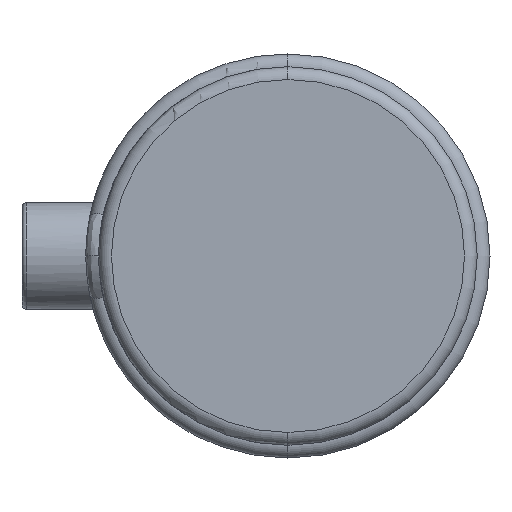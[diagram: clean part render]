
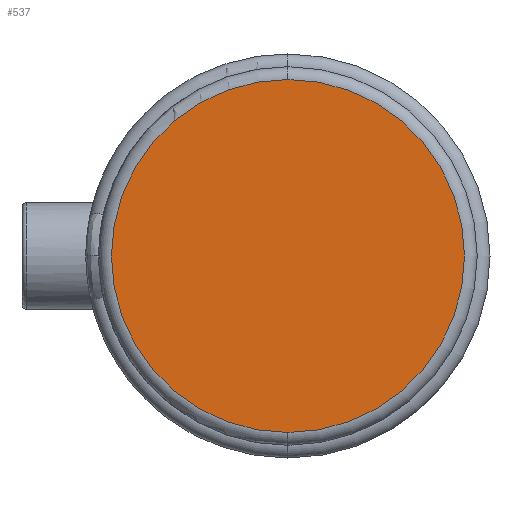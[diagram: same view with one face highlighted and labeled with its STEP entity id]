
A CAD part, left-side view. The second image highlights one B-rep face of the part: STEP entity #537.
In plain terms, the highlighted planar face has unit normal (-1, 0, 0).
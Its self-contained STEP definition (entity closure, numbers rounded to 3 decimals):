
#97 = DIRECTION ( 'NONE',  ( 0., 0., 1. ) ) ;
#363 = ORIENTED_EDGE ( 'NONE', *, *, #1676, .T. ) ;
#537 = ADVANCED_FACE ( 'NONE', ( #4596 ), #3180, .T. ) ;
#841 = AXIS2_PLACEMENT_3D ( 'NONE', #2743, #4535, #2419 ) ;
#875 = DIRECTION ( 'NONE',  ( -1., 0., 0. ) ) ;
#1029 = CARTESIAN_POINT ( 'NONE',  ( 0., 0., -41.45 ) ) ;
#1310 = AXIS2_PLACEMENT_3D ( 'NONE', #3615, #875, #4076 ) ;
#1398 = CIRCLE ( 'NONE', #1310, 41.45 ) ;
#1541 = EDGE_CURVE ( 'NONE', #5834, #5261, #1398, .T. ) ;
#1676 = EDGE_CURVE ( 'NONE', #5261, #5834, #4732, .T. ) ;
#2419 = DIRECTION ( 'NONE',  ( 0., 0., 1. ) ) ;
#2743 = CARTESIAN_POINT ( 'NONE',  ( 0., 0., 0. ) ) ;
#2900 = DIRECTION ( 'NONE',  ( -1., 0., 0. ) ) ;
#3180 = PLANE ( 'NONE',  #841 ) ;
#3615 = CARTESIAN_POINT ( 'NONE',  ( 0., 0., 0. ) ) ;
#3777 = AXIS2_PLACEMENT_3D ( 'NONE', #5635, #2900, #97 ) ;
#4076 = DIRECTION ( 'NONE',  ( 0., 0., 1. ) ) ;
#4535 = DIRECTION ( 'NONE',  ( -1., 0., 0. ) ) ;
#4596 = FACE_OUTER_BOUND ( 'NONE', #4623, .T. ) ;
#4623 = EDGE_LOOP ( 'NONE', ( #363, #5313 ) ) ;
#4732 = CIRCLE ( 'NONE', #3777, 41.45 ) ;
#5261 = VERTEX_POINT ( 'NONE', #5678 ) ;
#5313 = ORIENTED_EDGE ( 'NONE', *, *, #1541, .T. ) ;
#5635 = CARTESIAN_POINT ( 'NONE',  ( 0., 0., 0. ) ) ;
#5678 = CARTESIAN_POINT ( 'NONE',  ( 0., 0., 41.45 ) ) ;
#5834 = VERTEX_POINT ( 'NONE', #1029 ) ;
